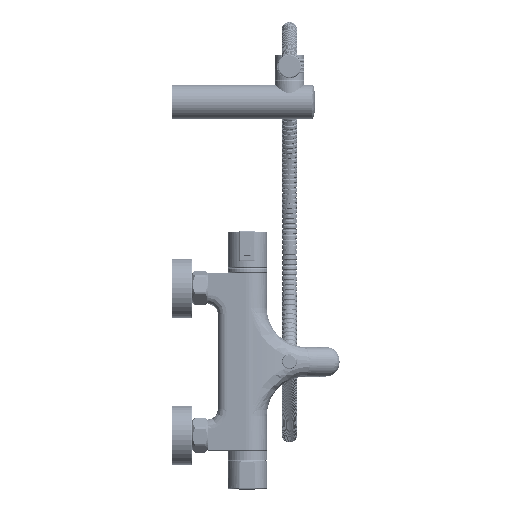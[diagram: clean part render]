
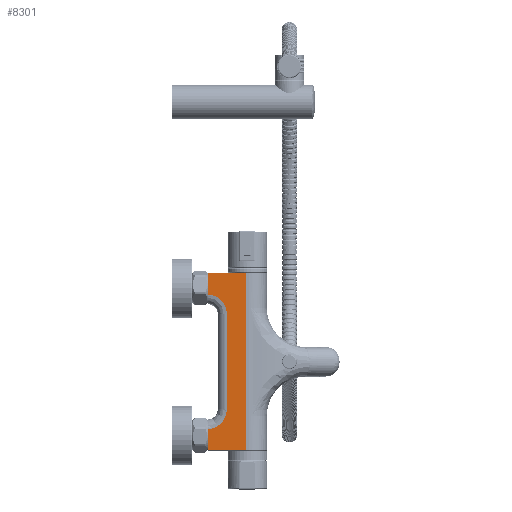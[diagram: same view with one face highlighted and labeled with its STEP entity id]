
A CAD part, top view. The second image highlights one B-rep face of the part: STEP entity #8301.
In plain terms, the highlighted planar face has unit normal (-0.076, 0, 0.997).
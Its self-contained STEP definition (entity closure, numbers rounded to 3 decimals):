
#8301=ADVANCED_FACE('',(#29256),#29258,.T.);
#29256=FACE_BOUND('',#29257,.T.);
#29257=EDGE_LOOP('',(#50904,#50905,#50906,#50907,#50908,#50909,#50910,#50911));
#29258=PLANE('',#29259);
#29259=AXIS2_PLACEMENT_3D('',#29260,#29261,#29262);
#29260=CARTESIAN_POINT('',(-1.525,90.5,19.942));
#29261=DIRECTION('',(-0.076,0.,0.997));
#29262=DIRECTION('',(-0.997,0.,-0.076));
#50904=ORIENTED_EDGE('',*,*,#55908,.F.);
#50905=ORIENTED_EDGE('',*,*,#55874,.F.);
#50906=ORIENTED_EDGE('',*,*,#55909,.T.);
#50907=ORIENTED_EDGE('',*,*,#55910,.T.);
#50908=ORIENTED_EDGE('',*,*,#55911,.T.);
#50909=ORIENTED_EDGE('',*,*,#55912,.T.);
#50910=ORIENTED_EDGE('',*,*,#55913,.T.);
#50911=ORIENTED_EDGE('',*,*,#55914,.T.);
#55874=EDGE_CURVE('',#59544,#59540,#59546,.T.);
#55908=EDGE_CURVE('',#59540,#59600,#59601,.T.);
#55909=EDGE_CURVE('',#59544,#59602,#59603,.T.);
#55910=EDGE_CURVE('',#59602,#59604,#59605,.T.);
#55911=EDGE_CURVE('',#59604,#59606,#59607,.F.);
#55912=EDGE_CURVE('',#59606,#59608,#59609,.F.);
#55913=EDGE_CURVE('',#59608,#59610,#59611,.F.);
#55914=EDGE_CURVE('',#59610,#59600,#59612,.T.);
#59540=VERTEX_POINT('',#79089);
#59544=VERTEX_POINT('',#79098);
#59546=LINE('',#79103,#79104);
#59600=VERTEX_POINT('',#79346);
#59601=LINE('',#79347,#79348);
#59602=VERTEX_POINT('',#79350);
#59603=LINE('',#79351,#79352);
#59604=VERTEX_POINT('',#79354);
#59605=LINE('',#79355,#79356);
#59606=VERTEX_POINT('',#79358);
#59607=(BOUNDED_CURVE()B_SPLINE_CURVE(3,
(#79359,#79360,#79361,#79362),
.UNSPECIFIED.,.F.,.F.)B_SPLINE_CURVE_WITH_KNOTS((4,4),
(0.,1.),
.UNSPECIFIED.)CURVE()GEOMETRIC_REPRESENTATION_ITEM()RATIONAL_B_SPLINE_CURVE((1.,
0.82,0.82,1.))REPRESENTATION_ITEM(''));
#59608=VERTEX_POINT('',#79363);
#59609=LINE('',#79364,#79365);
#59610=VERTEX_POINT('',#79367);
#59611=(BOUNDED_CURVE()B_SPLINE_CURVE(3,
(#79368,#79369,#79370,#79371),
.UNSPECIFIED.,.F.,.F.)B_SPLINE_CURVE_WITH_KNOTS((4,4),
(0.,1.),
.UNSPECIFIED.)CURVE()GEOMETRIC_REPRESENTATION_ITEM()RATIONAL_B_SPLINE_CURVE((1.,
0.82,0.82,1.))REPRESENTATION_ITEM(''));
#59612=LINE('',#79372,#79373);
#79089=CARTESIAN_POINT('',(-1.525,-89.9,19.942));
#79098=CARTESIAN_POINT('',(-1.525,89.9,19.942));
#79103=CARTESIAN_POINT('',(-1.525,89.9,19.942));
#79104=VECTOR('',#79105,1.);
#79105=DIRECTION('',(0.,-1.,0.));
#79346=CARTESIAN_POINT('',(-39.446,-89.9,17.042));
#79347=CARTESIAN_POINT('',(-1.525,-89.9,19.942));
#79348=VECTOR('',#79349,1.);
#79349=DIRECTION('',(-0.997,0.,-0.076));
#79350=CARTESIAN_POINT('',(-39.446,89.9,17.042));
#79351=CARTESIAN_POINT('',(-1.525,89.9,19.942));
#79352=VECTOR('',#79353,1.);
#79353=DIRECTION('',(-0.997,0.,-0.076));
#79354=CARTESIAN_POINT('',(-39.446,68.457,17.042));
#79355=CARTESIAN_POINT('',(-39.446,89.9,17.042));
#79356=VECTOR('',#79357,1.);
#79357=DIRECTION('',(0.,-1.,0.));
#79358=CARTESIAN_POINT('',(-20.762,48.5,18.471));
#79359=CARTESIAN_POINT('',(-20.762,48.5,18.471));
#79360=CARTESIAN_POINT('',(-20.762,59.613,18.471));
#79361=CARTESIAN_POINT('',(-28.357,67.725,17.89));
#79362=CARTESIAN_POINT('',(-39.446,68.457,17.042));
#79363=CARTESIAN_POINT('',(-20.762,-48.5,18.471));
#79364=CARTESIAN_POINT('',(-20.762,-48.5,18.471));
#79365=VECTOR('',#79366,1.);
#79366=DIRECTION('',(0.,1.,0.));
#79367=CARTESIAN_POINT('',(-39.446,-68.457,17.042));
#79368=CARTESIAN_POINT('',(-39.446,-68.457,17.042));
#79369=CARTESIAN_POINT('',(-28.357,-67.725,17.89));
#79370=CARTESIAN_POINT('',(-20.762,-59.613,18.471));
#79371=CARTESIAN_POINT('',(-20.762,-48.5,18.471));
#79372=CARTESIAN_POINT('',(-39.446,-68.457,17.042));
#79373=VECTOR('',#79374,1.);
#79374=DIRECTION('',(0.,-1.,0.));
